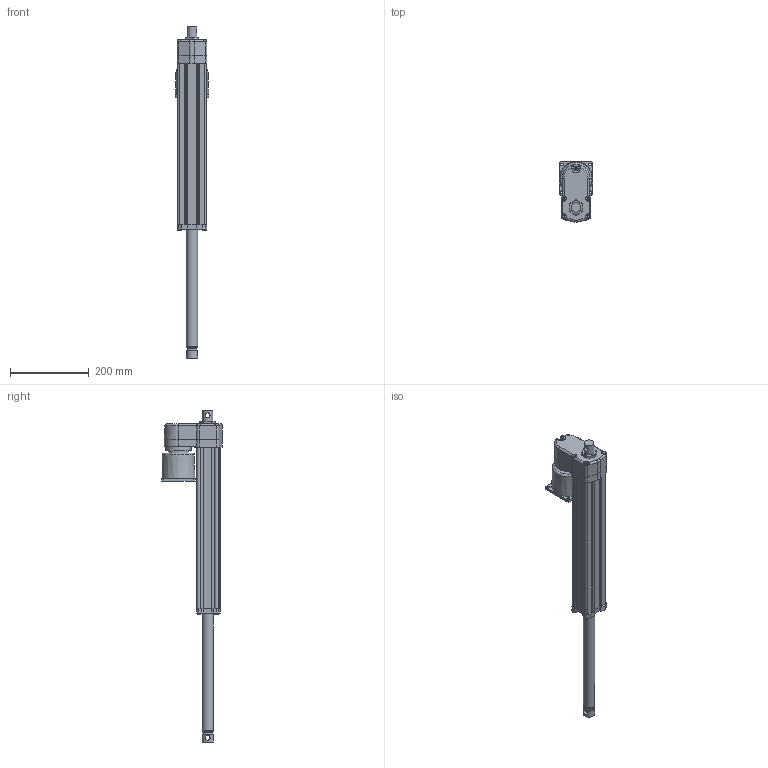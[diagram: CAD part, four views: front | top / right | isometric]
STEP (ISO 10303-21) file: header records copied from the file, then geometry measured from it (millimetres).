
FILE_DESCRIPTION (( 'STEP AP214' ), '1' );
FILE_NAME ('FA14-05B65M30M0_tollo.step', '2020-04-15T18:26:02', ( '' ), ( '' ), 'SwSTEP 2.0', 'SolidWorks 2010', '' );
FILE_SCHEMA (( 'AUTOMOTIVE_DESIGN' ));
Length unit declared in the file: millimetre
Products named in the file (9): Electrak-FA14-House-Ball-Tollo; Electrak-FA14-Rear-Tollo; Electrak-FA14-Motor-Tollo; Electrak-FA14-Tube-Ball-Tollo; Electrak-FA14-Plate-Tollo; Screw-MRT-TT-M5; Screw-M6S-M5; Electrak-FA14-Rod-Ball-Tollo; FA14-05B65M30M0_tollo
Assembly tree (15 placements, depth 3):
  FA14-05B65M30M0_tollo
    Electrak-FA14-Rod-Ball-Tollo
    Electrak-FA14-House-Ball-Tollo
      Screw-M6S-M5  x8
      Electrak-FA14-Rear-Tollo
      Screw-MRT-TT-M5
      Electrak-FA14-Motor-Tollo
      Electrak-FA14-Plate-Tollo
      Electrak-FA14-Tube-Ball-Tollo
Bounding box: 85 x 154.18 x 844 mm (x, y, z)
Volume: 1428780 mm3; surface area: 424422.6 mm2
Topology: 14 solids, 14 shells, 509 faces, 1279 edges, 826 vertices
Faces by surface type: plane 234, cylinder 198, cone 57, torus 18, bspline 2
Full cylindrical faces by diameter (mm): 4.126 x8, 4.8 x6, 5 x8, 5.6 x4, 6 x1, 7 x4, 7.878 x8, 9.5 x1, 11.741 x1, 12.2 x2, 25.4 x1, 28.5 x4, 34.5 x1, 47.625 x1, 50 x1, 65 x1, 80 x1
Entity records: 11671 total; most frequent: CARTESIAN_POINT 2704, DIRECTION 1857, ORIENTED_EDGE 1700, EDGE_CURVE 850, AXIS2_PLACEMENT_3D 686, VERTEX_POINT 577, VECTOR 485, LINE 485
